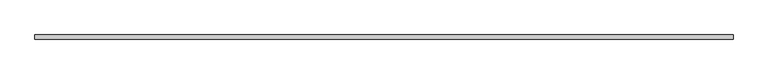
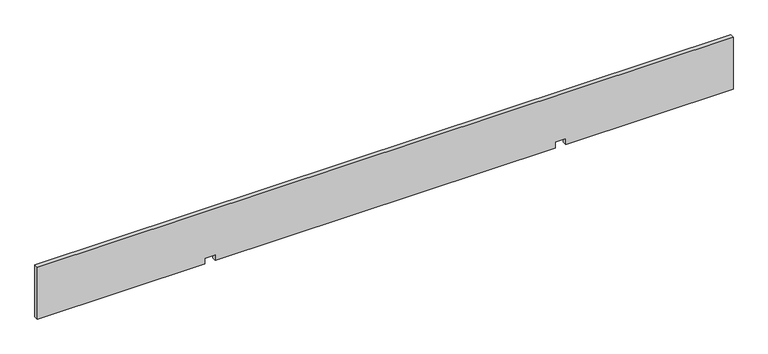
"""IFC4 building model written with IfcOpenShell, lengths in millimetres: proxy geometry."""

from ifc_helpers import new_model, si_unit, frame, origin, place, context, project, spatial, polyline, outline, extrude, source, transform, mapped, element, save


def specialty_equipment_96a710cc(model_context):
    return source(origin(), model_context, "Body", "SweptSolid", [
        extrude(outline(polyline([(238.252, -1511.3), (0.0, -1511.3), (0.0, -784.9266291), (25.4635, -784.9266291), (25.4635, -739.0733709), (0.0, -739.0733709), (0.0, 739.0733709), (25.4635, 739.0733709), (25.4635, 784.9266291), (0.0, 784.9266291), (0.0, 1511.3), (238.252, 1511.3), (238.252, -1511.3)])), frame((0.0, -9.017, 0.0), z_axis=(0.0, 1.0, 0.0), x_axis=(0.0, 0.0, 1.0)), (0.0, 0.0, 1.0), 18.034),
    ])


if __name__ == "__main__":
    model = new_model("IFC4")
    model_context = context("Model", 3, world=origin())
    ifc_project = project(units=[si_unit("LENGTHUNIT", "METRE", prefix="MILLI")], contexts=[model_context])
    site = spatial("IfcSite", under=ifc_project)
    building = spatial("IfcBuilding", under=site)
    placement = place(None, origin())
    specialty_equipment_shape = specialty_equipment_96a710cc(model_context)
    element("IfcBuildingElementProxy", 1, Name="SE_TIMBER BAFFLE_SINGLE_FB_TURF : 119\" - FELTLOCK", ObjectType="SE_TIMBER BAFFLE_SINGLE_FB_TURF : 119\" - FELTLOCK", at=placement, inside=building, context=model_context, shape_type="MappedRepresentation", body=[
        mapped(specialty_equipment_shape, transform((0.0, 0.0, 0.0), x_axis=(1.0, 0.0, 0.0), y_axis=(0.0, 1.0, 0.0), z_axis=(0.0, 0.0, 1.0))),
    ])
    save(model, "model.ifc")
